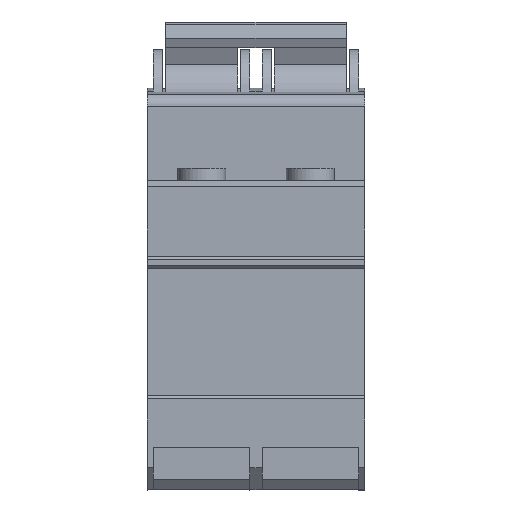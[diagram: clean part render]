
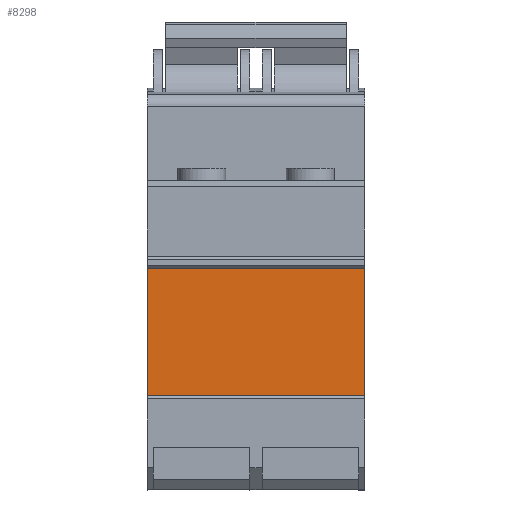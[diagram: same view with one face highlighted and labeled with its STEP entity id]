
A CAD part, front view. The second image highlights one B-rep face of the part: STEP entity #8298.
In plain terms, the highlighted planar face has unit normal (0, -1, 0).
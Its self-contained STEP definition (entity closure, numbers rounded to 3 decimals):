
#470=LINE('',#14589,#1146);
#514=LINE('',#14676,#1190);
#563=LINE('',#14850,#1239);
#564=LINE('',#14852,#1240);
#1146=VECTOR('',#10288,10.);
#1190=VECTOR('',#10338,10.);
#1239=VECTOR('',#10537,10.);
#1240=VECTOR('',#10540,10.);
#2232=FACE_OUTER_BOUND('',#2816,.T.);
#2816=EDGE_LOOP('',(#6720,#6721,#6722,#6723));
#3830=VERTEX_POINT('',#14586);
#3831=VERTEX_POINT('',#14588);
#3870=VERTEX_POINT('',#14673);
#3871=VERTEX_POINT('',#14675);
#4813=EDGE_CURVE('',#3830,#3831,#470,.T.);
#4857=EDGE_CURVE('',#3871,#3870,#514,.T.);
#4938=EDGE_CURVE('',#3870,#3831,#563,.T.);
#4939=EDGE_CURVE('',#3871,#3830,#564,.T.);
#6720=ORIENTED_EDGE('',*,*,#4857,.T.);
#6721=ORIENTED_EDGE('',*,*,#4938,.T.);
#6722=ORIENTED_EDGE('',*,*,#4813,.F.);
#6723=ORIENTED_EDGE('',*,*,#4939,.F.);
#7829=PLANE('',#8967);
#8298=ADVANCED_FACE('',(#2232),#7829,.T.);
#8967=AXIS2_PLACEMENT_3D('',#14851,#10538,#10539);
#10288=DIRECTION('',(0.,0.,-1.));
#10338=DIRECTION('',(0.,0.,-1.));
#10537=DIRECTION('',(1.,0.,0.));
#10538=DIRECTION('center_axis',(0.,-1.,0.));
#10539=DIRECTION('ref_axis',(0.,0.,-1.));
#10540=DIRECTION('',(1.,0.,0.));
#14586=CARTESIAN_POINT('',(36.,-36.074,-3.815));
#14588=CARTESIAN_POINT('',(36.,-36.074,-24.923));
#14589=CARTESIAN_POINT('',(36.,-36.074,-3.815));
#14673=CARTESIAN_POINT('',(0.,-36.074,-24.923));
#14675=CARTESIAN_POINT('',(0.,-36.074,-3.815));
#14676=CARTESIAN_POINT('',(0.,-36.074,-3.815));
#14850=CARTESIAN_POINT('',(0.,-36.074,-24.923));
#14851=CARTESIAN_POINT('Origin',(0.,-36.074,-3.815));
#14852=CARTESIAN_POINT('',(0.,-36.074,-3.815));
